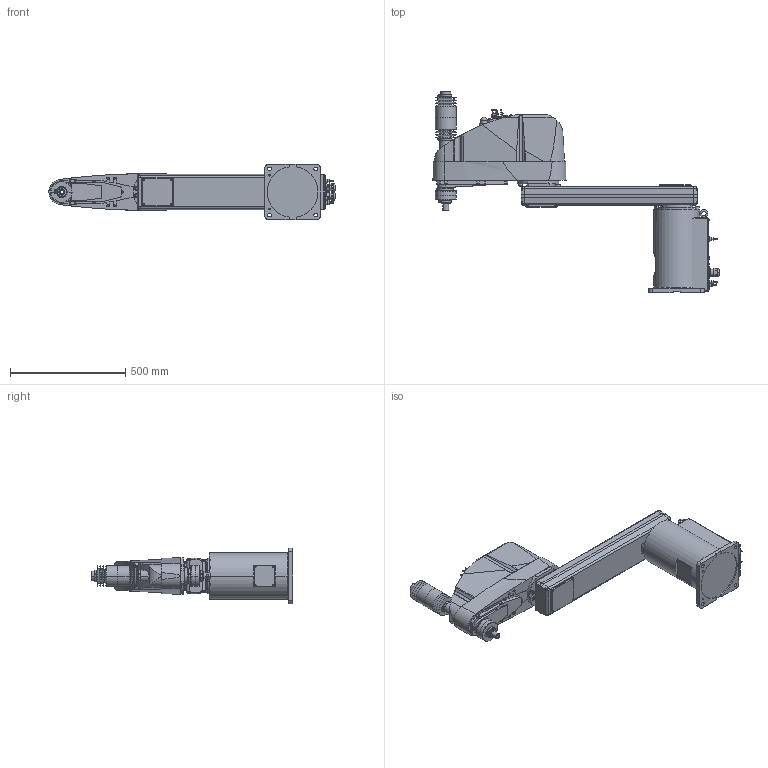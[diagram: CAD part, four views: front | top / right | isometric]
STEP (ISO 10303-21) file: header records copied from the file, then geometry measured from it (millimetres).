
FILE_DESCRIPTION( ( '' ), '1' );
FILE_NAME( '//expscmdclustefs.cadenas.external/client_exchange/iodir/jobs/output/wkb51493549_no0/STEP/G20_A01P_2_14b.stp', '2012-11-22T09:44:07', ( '' ), ( '' ), ' ', ' ', ' ' );
FILE_SCHEMA( ( 'automotive_design' ) );
Length unit declared in the file: millimetre
Products named in the file (8): 1; 2; 3; 4; 5; 6; 7; 8
Bounding box: 1239.5 x 874 x 240 mm (x, y, z)
Volume: 43509059.3 mm3; surface area: 1681656.4 mm2
Topology: 8 solids, 9 shells, 2083 faces, 5018 edges, 3220 vertices
Faces by surface type: plane 1079, cylinder 682, cone 282, torus 39, sphere 1
Entity records: 120554 total; most frequent: CARTESIAN_POINT 12698, DIRECTION 10774, STYLED_ITEM 10317, PRESENTATION_STYLE_ASSIGNMENT 10317, COLOUR_RGB 10317, ORIENTED_EDGE 10012, EDGE_CURVE 5006, CURVE_STYLE 5006
